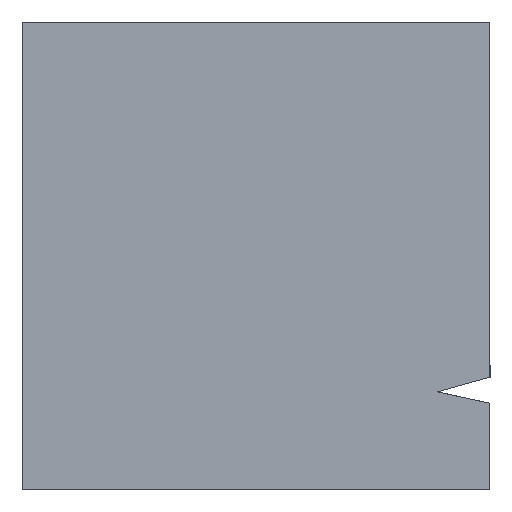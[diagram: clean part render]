
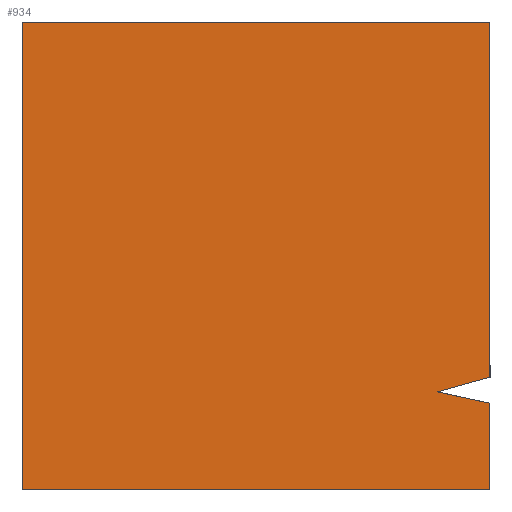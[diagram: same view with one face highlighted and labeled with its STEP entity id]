
A CAD part, left-side view. The second image highlights one B-rep face of the part: STEP entity #934.
In plain terms, the highlighted planar face has unit normal (-1, 0, 0).
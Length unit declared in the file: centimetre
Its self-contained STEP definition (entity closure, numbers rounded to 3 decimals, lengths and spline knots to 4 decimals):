
#45 = LINE ( 'NONE', #1224, #759 ) ;
#57 = DIRECTION ( 'NONE',  ( 0., 0.963, -0.271 ) ) ;
#86 = EDGE_CURVE ( 'NONE', #188, #514, #1441, .T. ) ;
#96 = DIRECTION ( 'NONE',  ( 0., -0.977, -0.212 ) ) ;
#118 = DIRECTION ( 'NONE',  ( 0., 0., -1. ) ) ;
#125 = VECTOR ( 'NONE', #57, 100. ) ;
#132 = VERTEX_POINT ( 'NONE', #632 ) ;
#157 = FACE_OUTER_BOUND ( 'NONE', #211, .T. ) ;
#188 = VERTEX_POINT ( 'NONE', #501 ) ;
#190 = EDGE_CURVE ( 'NONE', #132, #837, #399, .T. ) ;
#211 = EDGE_LOOP ( 'NONE', ( #1523, #1064, #1423, #375, #692, #786, #237 ) ) ;
#225 = LINE ( 'NONE', #1166, #803 ) ;
#237 = ORIENTED_EDGE ( 'NONE', *, *, #86, .T. ) ;
#292 = PLANE ( 'NONE',  #1361 ) ;
#375 = ORIENTED_EDGE ( 'NONE', *, *, #1466, .F. ) ;
#388 = DIRECTION ( 'NONE',  ( 0., 0., -1. ) ) ;
#399 = LINE ( 'NONE', #1127, #125 ) ;
#453 = LINE ( 'NONE', #559, #876 ) ;
#501 = CARTESIAN_POINT ( 'NONE',  ( 0., 1000., 0. ) ) ;
#511 = DIRECTION ( 'NONE',  ( 0., 0., -1. ) ) ;
#514 = VERTEX_POINT ( 'NONE', #1428 ) ;
#533 = CARTESIAN_POINT ( 'NONE',  ( 0., 0., 1000. ) ) ;
#559 = CARTESIAN_POINT ( 'NONE',  ( 0., 0., 185.4431 ) ) ;
#632 = CARTESIAN_POINT ( 'NONE',  ( 0., 0., 241.0346 ) ) ;
#657 = DIRECTION ( 'NONE',  ( 0., 0., -1. ) ) ;
#692 = ORIENTED_EDGE ( 'NONE', *, *, #742, .F. ) ;
#705 = LINE ( 'NONE', #1311, #827 ) ;
#726 = CARTESIAN_POINT ( 'NONE',  ( 0., 0., 1000. ) ) ;
#730 = CARTESIAN_POINT ( 'NONE',  ( 0., 1000., 1000. ) ) ;
#742 = EDGE_CURVE ( 'NONE', #1277, #883, #225, .T. ) ;
#759 = VECTOR ( 'NONE', #511, 100. ) ;
#786 = ORIENTED_EDGE ( 'NONE', *, *, #1024, .T. ) ;
#803 = VECTOR ( 'NONE', #1283, 100. ) ;
#827 = VECTOR ( 'NONE', #118, 100. ) ;
#837 = VERTEX_POINT ( 'NONE', #952 ) ;
#876 = VECTOR ( 'NONE', #96, 100. ) ;
#883 = VERTEX_POINT ( 'NONE', #726 ) ;
#934 = ADVANCED_FACE ( 'NONE', ( #157 ), #292, .F. ) ;
#952 = CARTESIAN_POINT ( 'NONE',  ( 0., 111.5839, 209.6476 ) ) ;
#971 = VECTOR ( 'NONE', #1339, 100. ) ;
#1011 = CARTESIAN_POINT ( 'NONE',  ( 0., 1000., 1000. ) ) ;
#1024 = EDGE_CURVE ( 'NONE', #1277, #188, #45, .T. ) ;
#1045 = EDGE_CURVE ( 'NONE', #837, #1201, #453, .T. ) ;
#1064 = ORIENTED_EDGE ( 'NONE', *, *, #1045, .F. ) ;
#1067 = CARTESIAN_POINT ( 'NONE',  ( 0., 0., 185.4431 ) ) ;
#1127 = CARTESIAN_POINT ( 'NONE',  ( 0., 111.5839, 209.6476 ) ) ;
#1166 = CARTESIAN_POINT ( 'NONE',  ( 0., 1000., 1000. ) ) ;
#1196 = EDGE_CURVE ( 'NONE', #1201, #514, #705, .T. ) ;
#1201 = VERTEX_POINT ( 'NONE', #1067 ) ;
#1224 = CARTESIAN_POINT ( 'NONE',  ( 0., 1000., 1000. ) ) ;
#1277 = VERTEX_POINT ( 'NONE', #730 ) ;
#1283 = DIRECTION ( 'NONE',  ( 0., -1., 0. ) ) ;
#1311 = CARTESIAN_POINT ( 'NONE',  ( 0., 0., 1000. ) ) ;
#1339 = DIRECTION ( 'NONE',  ( 0., -1., 0. ) ) ;
#1361 = AXIS2_PLACEMENT_3D ( 'NONE', #1011, #1470, #388 ) ;
#1423 = ORIENTED_EDGE ( 'NONE', *, *, #190, .F. ) ;
#1428 = CARTESIAN_POINT ( 'NONE',  ( 0., 0., 0. ) ) ;
#1441 = LINE ( 'NONE', #1472, #971 ) ;
#1466 = EDGE_CURVE ( 'NONE', #883, #132, #1510, .T. ) ;
#1470 = DIRECTION ( 'NONE',  ( 1., 0., 0. ) ) ;
#1472 = CARTESIAN_POINT ( 'NONE',  ( 0., 1000., 0. ) ) ;
#1504 = VECTOR ( 'NONE', #657, 100. ) ;
#1510 = LINE ( 'NONE', #533, #1504 ) ;
#1523 = ORIENTED_EDGE ( 'NONE', *, *, #1196, .F. ) ;
